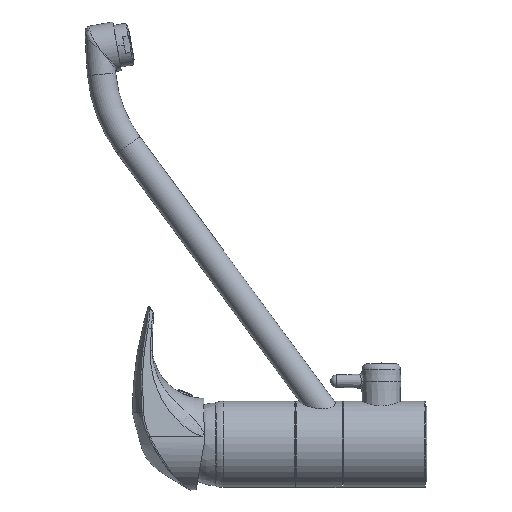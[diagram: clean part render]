
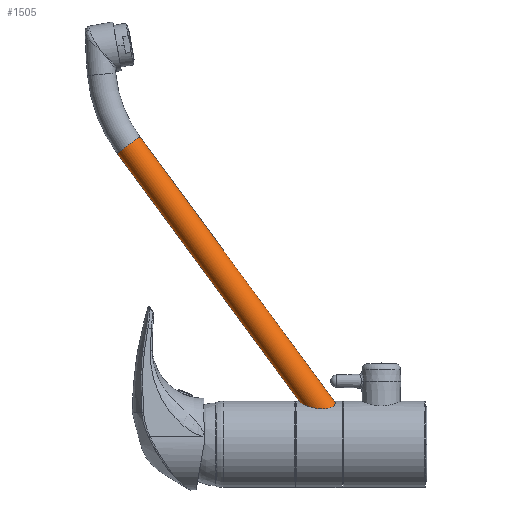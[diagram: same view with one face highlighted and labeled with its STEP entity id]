
A CAD part, left-side view. The second image highlights one B-rep face of the part: STEP entity #1505.
In plain terms, the highlighted cylindrical face has radius 8 mm (diameter 16 mm), a partial arc.
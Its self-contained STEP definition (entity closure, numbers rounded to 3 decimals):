
#819=CARTESIAN_POINT('',(-6.,168.509,169.97));
#820=DIRECTION('',(0.,0.592,0.806));
#821=DIRECTION('',(0.,0.806,-0.592));
#822=AXIS2_PLACEMENT_3D('',#819,#820,#821);
#829=CARTESIAN_POINT('',(-6.,51.095,23.754));
#830=CARTESIAN_POINT('',(-6.528,50.997,23.62));
#831=CARTESIAN_POINT('',(-7.597,50.901,23.313));
#832=CARTESIAN_POINT('',(-9.189,51.087,22.732));
#833=CARTESIAN_POINT('',(-10.665,51.635,22.075));
#834=CARTESIAN_POINT('',(-11.91,52.516,21.423));
#835=CARTESIAN_POINT('',(-12.883,53.702,20.847));
#836=CARTESIAN_POINT('',(-13.549,55.113,20.415));
#837=CARTESIAN_POINT('',(-13.927,56.691,20.157));
#838=CARTESIAN_POINT('',(-14.039,58.381,20.079));
#839=CARTESIAN_POINT('',(-13.916,60.114,20.165));
#840=CARTESIAN_POINT('',(-13.574,61.892,20.398));
#841=CARTESIAN_POINT('',(-13.028,63.658,20.754));
#842=CARTESIAN_POINT('',(-12.272,65.396,21.212));
#843=CARTESIAN_POINT('',(-11.337,66.998,21.73));
#844=CARTESIAN_POINT('',(-10.224,68.43,22.278));
#845=CARTESIAN_POINT('',(-8.968,69.614,22.815));
#846=CARTESIAN_POINT('',(-7.524,70.523,23.334));
#847=CARTESIAN_POINT('',(-6.515,70.858,23.624));
#848=CARTESIAN_POINT('',(-6.,70.953,23.754));
#850=DIRECTION('',(0.,0.592,0.806));
#851=VECTOR('',#850,175.591);
#852=CARTESIAN_POINT('',(-6.,70.953,23.754));
#853=LINE('',#852,#851);
#899=DIRECTION('',(0.,0.592,0.806));
#900=VECTOR('',#899,187.353);
#901=CARTESIAN_POINT('',(-6.,51.095,23.754));
#902=LINE('',#901,#900);
#945=CARTESIAN_POINT('',(-6.,174.955,165.231));
#946=VERTEX_POINT('',#945);
#947=CARTESIAN_POINT('',(-6.,162.063,174.708));
#948=VERTEX_POINT('',#947);
#963=VERTEX_POINT('',#848);
#964=VERTEX_POINT('',#829);
#1491=CARTESIAN_POINT('',(-6.,47.046,4.738));
#1492=DIRECTION('',(0.,0.592,0.806));
#1493=DIRECTION('',(0.,-0.806,0.592));
#1494=AXIS2_PLACEMENT_3D('',#1491,#1492,#1493);
#1495=CYLINDRICAL_SURFACE('',#1494,8.);
#1497=ORIENTED_EDGE('',*,*,#1496,.T.);
#1499=ORIENTED_EDGE('',*,*,#1498,.T.);
#1500=ORIENTED_EDGE('',*,*,#1482,.T.);
#1502=ORIENTED_EDGE('',*,*,#1501,.F.);
#1503=EDGE_LOOP('',(#1497,#1499,#1500,#1502));
#1504=FACE_OUTER_BOUND('',#1503,.F.);
#1505=ADVANCED_FACE('',(#1504),#1495,.T.);
#823=CIRCLE('',#822,8.);
#849=B_SPLINE_CURVE_WITH_KNOTS('',3,(#829,#830,#831,#832,#833,#834,#835,#836,
#837,#838,#839,#840,#841,#842,#843,#844,#845,#846,#847,#848),.UNSPECIFIED.,.F.,
.F.,(4,1,1,1,1,1,1,1,1,1,1,1,1,1,1,1,1,4),(0.,0.059,
0.118,0.176,0.235,0.294,
0.353,0.412,0.471,0.529,
0.588,0.647,0.706,0.765,
0.824,0.882,0.941,1.),.UNSPECIFIED.);
#1482=EDGE_CURVE('',#946,#948,#823,.T.);
#1496=EDGE_CURVE('',#964,#963,#849,.T.);
#1498=EDGE_CURVE('',#963,#946,#853,.T.);
#1501=EDGE_CURVE('',#964,#948,#902,.T.);
